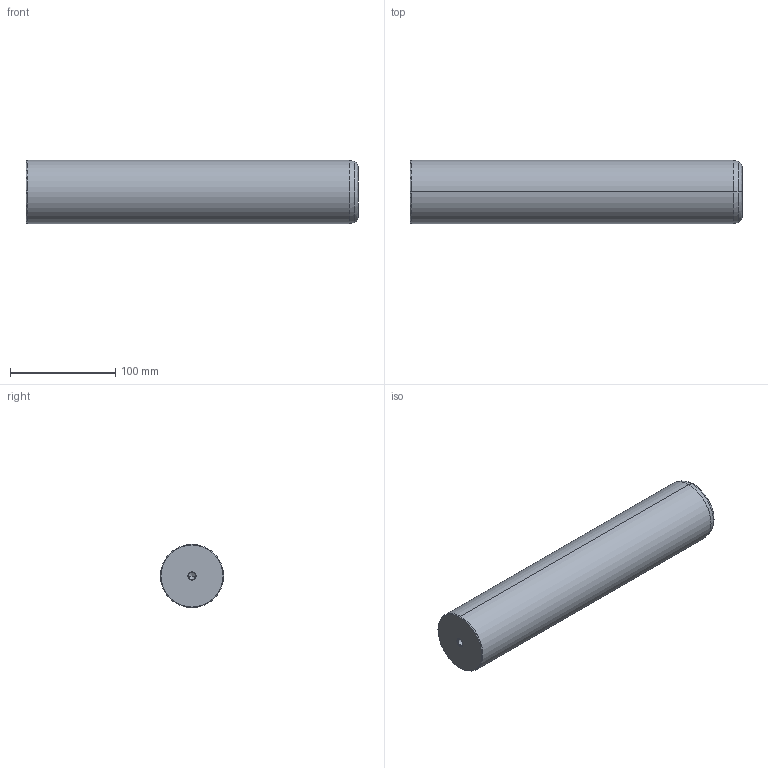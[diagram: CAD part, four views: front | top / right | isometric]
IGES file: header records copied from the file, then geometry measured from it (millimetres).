
Start section: START RECORD GO HERE.
Global section: file name: 720-60x315.igs; native system: DASSAULT SYSTEMES CATIA V5 R20 - www.3ds.com; preprocessor: CATIA Version 5 Release 20 ; author: Utente; organization: NB04-ASUS; date: 20201230.223407; units: millimetre
Bounding box: 315 x 60 x 60 mm (x, y, z)
Surface area: 65351.2 mm2 (no closed solid volume)
Topology: 0 solids, 0 shells, 22 faces, 120 edges, 116 vertices
Faces by surface type: revolution 20, plane 2
